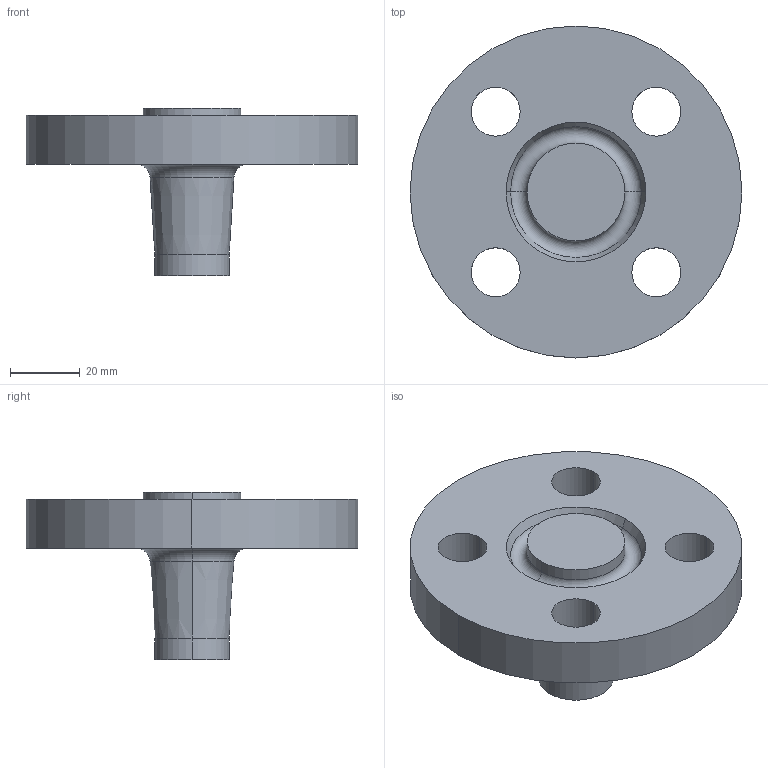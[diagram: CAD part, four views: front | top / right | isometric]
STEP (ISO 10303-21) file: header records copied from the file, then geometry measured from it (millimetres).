
FILE_DESCRIPTION (( 'STEP AP214' ), '1' );
FILE_NAME ('PN40 DN15 Type 21(ii) - Type H Face.STEP', '2018-12-29T14:22:14', ( '' ), ( '' ), 'SwSTEP 2.0', 'SolidWorks 2019', '' );
FILE_SCHEMA (( 'AUTOMOTIVE_DESIGN' ));
Length unit declared in the file: millimetre
Products named in the file (1): PN40 DN15 Type 21(ii) - Type H Face
Bounding box: 95 x 95 x 48 mm (x, y, z)
Volume: 103010.8 mm3; surface area: 22335.6 mm2
Topology: 1 solids, 1 shells, 28 faces, 62 edges, 38 vertices
Faces by surface type: cylinder 14, torus 6, cone 4, plane 4
Entity records: 840 total; most frequent: DIRECTION 164, CARTESIAN_POINT 129, ORIENTED_EDGE 124, AXIS2_PLACEMENT_3D 73, EDGE_CURVE 62, CIRCLE 44, VERTEX_POINT 38, EDGE_LOOP 38
